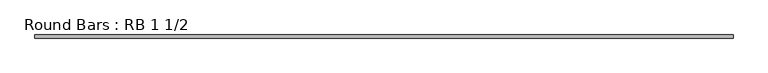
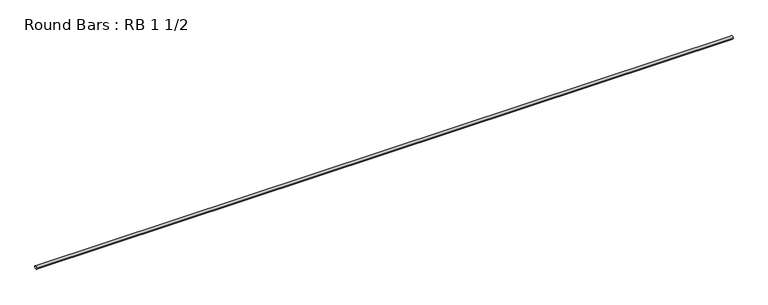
"""IFC4 building model written with IfcOpenShell, lengths in millimetres: member geometry, Round Bars : RB 1 1/2."""

from ifc_helpers import new_model, si_unit, point, frame, origin, origin_2d, place, context, project, spatial, circle_curve, trimmed, segment, composite_curve, outline, extrude, source, transform, mapped, element, save


def round_bars_rb_1_1_2_556780e7(model_context):
    return source(origin(), model_context, "Body", "SweptSolid", [
        extrude(outline(composite_curve([segment(trimmed(circle_curve(origin_2d(), 19.05), [point((19.05, 0.0))], [point((-19.05, 0.0))], False, "CARTESIAN"), True, "CONTINUOUS"), segment(trimmed(circle_curve(origin_2d(), 19.05), [point((-19.05, 0.0))], [point((19.05, 0.0))], False, "CARTESIAN"), True, "CONTINUOUS")], self_intersect=False)), frame((-4214.4433298, 0.0, 0.0), z_axis=(1.0, 0.0, 0.0), x_axis=(0.0, 1.0, 0.0)), (0.0, 0.0, 1.0), 8428.8849667),
    ])


if __name__ == "__main__":
    model = new_model("IFC4")
    model_context = context("Model", 3, world=origin())
    ifc_project = project(units=[si_unit("LENGTHUNIT", "METRE", prefix="MILLI")], contexts=[model_context])
    site = spatial("IfcSite", under=ifc_project)
    building = spatial("IfcBuilding", under=site)
    placement = place(None, origin())
    round_bars_rb_1_1_2_shape = round_bars_rb_1_1_2_556780e7(model_context)
    element("IfcMember", 1, ObjectType="Round Bars : RB 1 1/2", at=placement, inside=building, context=model_context, shape_type="MappedRepresentation", body=[
        mapped(round_bars_rb_1_1_2_shape, transform((0.0, 0.0, 0.0), x_axis=(1.0, 0.0, 0.0), y_axis=(0.0, 1.0, 0.0), z_axis=(0.0, 0.0, 1.0))),
    ])
    save(model, "model.ifc")
